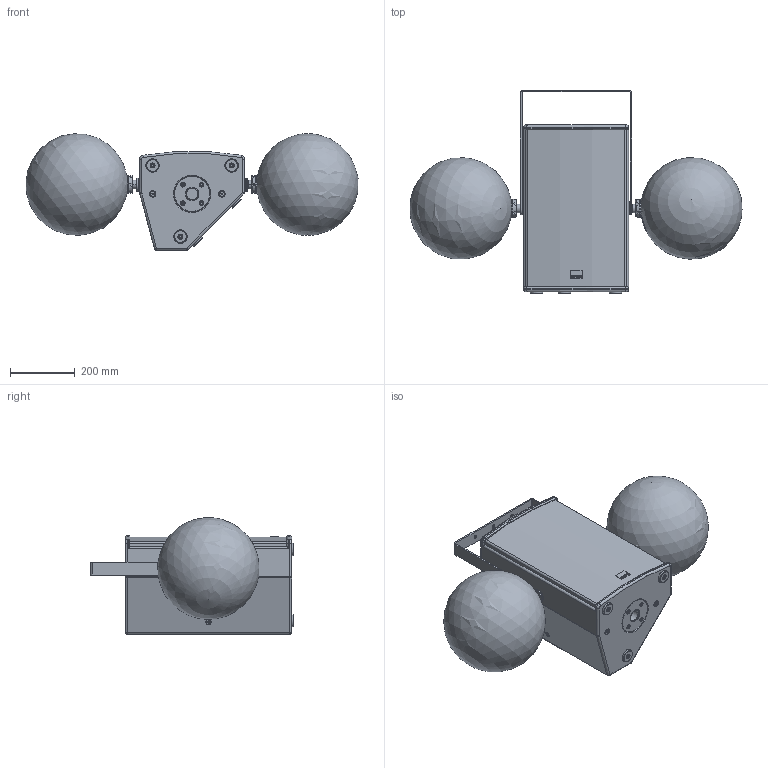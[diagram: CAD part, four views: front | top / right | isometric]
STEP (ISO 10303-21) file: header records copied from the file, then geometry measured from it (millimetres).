
FILE_DESCRIPTION (( 'STEP AP203' ), '1' );
FILE_NAME ('SEEBURG_A4_Bracket-ver.STEP', '2012-09-28T06:48:50', ( 'Fabian' ), ( '' ), 'SwSTEP 2.0', 'SolidWorks 2009', '' );
FILE_SCHEMA (( 'CONFIG_CONTROL_DESIGN' ));
Length unit declared in the file: millimetre
Products named in the file (2): A4_Bracket-ver; SEEBURG_A4_Bracket-ver
Assembly tree (1 placements, depth 2):
  SEEBURG_A4_Bracket-ver
    A4_Bracket-ver
Bounding box: 1025.06 x 628.5 x 359.85 mm (x, y, z)
Surface area: 2808264.1 mm2 (no closed solid volume)
Topology: 0 solids, 33 shells, 838 faces, 1969 edges, 1235 vertices
Faces by surface type: cylinder 323, plane 259, cone 118, torus 116, sphere 16, bspline 6
Entity records: 28589 total; most frequent: CARTESIAN_POINT 8978, DIRECTION 4295, ORIENTED_EDGE 3896, EDGE_CURVE 1952, AXIS2_PLACEMENT_3D 1712, VERTEX_POINT 1225, EDGE_LOOP 965, CIRCLE 876
